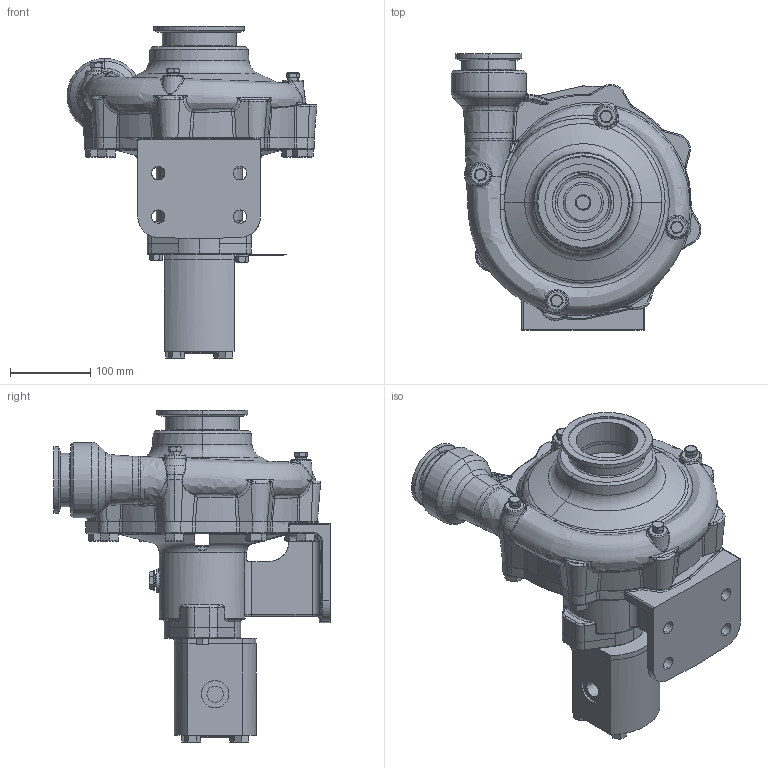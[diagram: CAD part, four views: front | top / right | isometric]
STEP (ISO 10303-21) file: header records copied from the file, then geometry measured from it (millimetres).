
FILE_DESCRIPTION (( 'STEP AP203' ), '1' );
FILE_NAME ('9307C-GM12-U.step', '2013-09-18T21:37:08', ( '' ), ( '' ), 'SwSTEP 2.0', 'SolidWorks 2012', '' );
FILE_SCHEMA (( 'CONFIG_CONTROL_DESIGN' ));
Length unit declared in the file: inch
Products named in the file (1): 9307C-GM12-U
Bounding box: 310.64 x 343.08 x 412.67 mm (x, y, z)
Volume: 4115418.6 mm3; surface area: 690124.7 mm2
Topology: 1 solids, 35 shells, 2157 faces, 5369 edges, 3313 vertices
Faces by surface type: plane 782, cylinder 451, bspline 372, cone 340, torus 193, sphere 19
Entity records: 108087 total; most frequent: CARTESIAN_POINT 59849, ORIENTED_EDGE 10652, DIRECTION 9202, EDGE_CURVE 5326, AXIS2_PLACEMENT_3D 3446, VERTEX_POINT 3313, VECTOR 2310, LINE 2310
